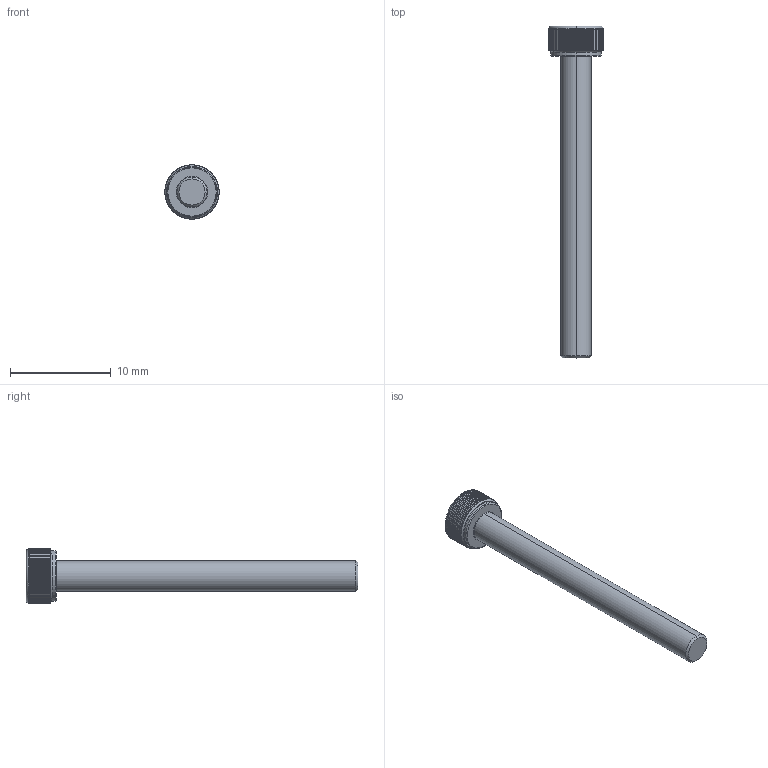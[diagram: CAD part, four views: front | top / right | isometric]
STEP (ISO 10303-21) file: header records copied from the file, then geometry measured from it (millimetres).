
FILE_DESCRIPTION (( 'STEP AP203' ), '1' );
FILE_NAME ('LGDT-304-M3x30.STEP', '2026-08-08T10:24:26', ( '' ), ( '' ), 'SwSTEP 2.0', 'SolidWorks 2020', '' );
FILE_SCHEMA (( 'CONFIG_CONTROL_DESIGN' ));
Length unit declared in the file: millimetre
Products named in the file (1): LGDT-304-M3x30
Bounding box: 5.4 x 33 x 5.4 mm (x, y, z)
Volume: 269.8 mm3; surface area: 386.5 mm2
Topology: 1 solids, 1 shells, 204 faces, 576 edges, 376 vertices
Faces by surface type: cylinder 175, cone 11, plane 10, torus 8
Entity records: 10019 total; most frequent: CARTESIAN_POINT 4860, ORIENTED_EDGE 1152, DIRECTION 988, EDGE_CURVE 576, AXIS2_PLACEMENT_3D 398, VERTEX_POINT 376, EDGE_LOOP 206, ADVANCED_FACE 204
